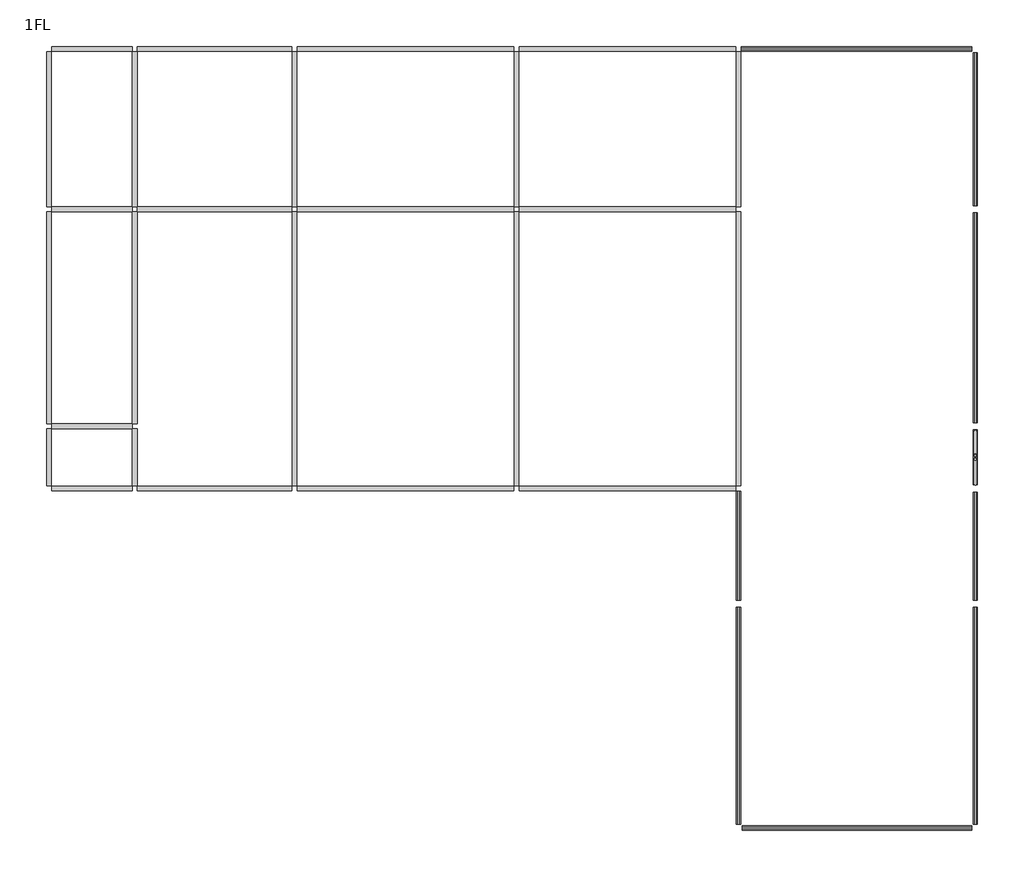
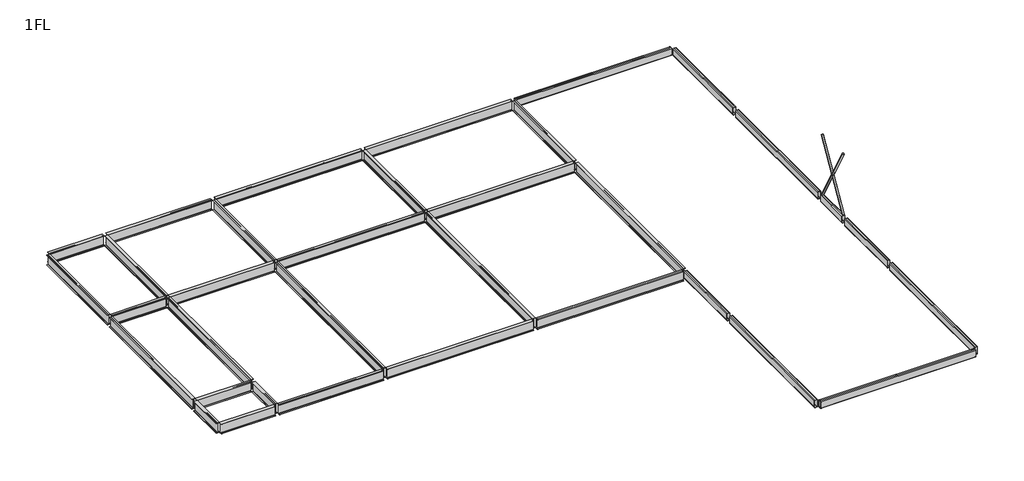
# One storey: 36 beams.
"""IFC4 building model written with IfcOpenShell, lengths in millimetres."""

import ifcopenshell
import ifcopenshell.guid

model = None  # the IFC model being written
_history = None  # IfcOwnerHistory: only IFC2X3 demands one
_inside = {}  # id of a spatial element -> (the spatial element, [elements in it])
_under = {}  # id of a project, library or spatial element -> (it, [spatial elements below it])
_declared = {}  # id of a project -> (the project, [libraries it declares])
_typed = {}  # id of a type object -> (the type object, [elements of that type])
_made_of = {}  # id of a material, layer set ... -> (it, [elements and type objects made of it])


def new_model(schema):
    """Start an empty IFC model of exactly this schema.

    Asked for "IFC4X3", IfcOpenShell would pick the latest addendum, in which some entities
    have other attributes; the version numbers below select the first issue.
    IFC2X3 requires an IfcOwnerHistory on every rooted entity: one is made here for all.
    """
    global model, _history
    if schema == "IFC4X3":
        model = ifcopenshell.file(schema_version=(4, 3, 0, 0))
    else:
        model = ifcopenshell.file(schema=schema)
    _inside.clear()
    _under.clear()
    _declared.clear()
    _typed.clear()
    _made_of.clear()
    _history = None
    if model.schema == "IFC2X3":
        org = make("IfcOrganization", Name="unknown")
        user = make(
            "IfcPersonAndOrganization",
            ThePerson=make("IfcPerson", FamilyName="unknown"),
            TheOrganization=org,
        )
        app = make(
            "IfcApplication",
            ApplicationDeveloper=org,
            Version="unknown",
            ApplicationFullName="unknown",
            ApplicationIdentifier="unknown",
        )
        _history = make(
            "IfcOwnerHistory",
            OwningUser=user,
            OwningApplication=app,
            ChangeAction="ADDED",
            CreationDate=0,
        )
    return model


def make(cls, **values):
    """One entity of the class cls with the attributes given. An attribute that is None is left unset."""
    return model.create_entity(
        cls, **{name: value for name, value in values.items() if value is not None}
    )


def rooted(cls, **values):
    """An entity with a GlobalId (a new one), such as an element, a storey or a relation."""
    return make(cls, GlobalId=ifcopenshell.guid.new(), OwnerHistory=_history, **values)


def si_unit(unit_type, name, prefix=None):
    """IfcSIUnit, for example si_unit("LENGTHUNIT", "METRE", prefix="MILLI")."""
    return make("IfcSIUnit", UnitType=unit_type, Prefix=prefix, Name=name)


def assignment(units):
    """IfcUnitAssignment: the units of a project."""
    return None if units is None else make("IfcUnitAssignment", Units=units)


def point(xyz):
    """IfcCartesianPoint."""
    return None if xyz is None else make("IfcCartesianPoint", Coordinates=xyz)


def direction(xyz):
    """IfcDirection."""
    return None if xyz is None else make("IfcDirection", DirectionRatios=xyz)


def frame(location, z_axis=None, x_axis=None):
    """IfcAxis2Placement3D, a coordinate frame: its origin and axes. An axis left out is left unset."""
    return make(
        "IfcAxis2Placement3D",
        Location=point(location),
        Axis=direction(z_axis),
        RefDirection=direction(x_axis),
    )


def frame_2d(location, x_axis=None):
    """IfcAxis2Placement2D, a coordinate frame in the plane: its origin and x axis."""
    return make(
        "IfcAxis2Placement2D", Location=point(location), RefDirection=direction(x_axis)
    )


def origin():
    """The frame at (0, 0, 0) with its axes left unset."""
    return frame((0.0, 0.0, 0.0))


def origin_2d():
    """The frame at (0, 0) in the plane with its x axis left unset."""
    return frame_2d((0.0, 0.0))


def place(relative_to, where):
    """IfcLocalPlacement: puts the frame where relative to a parent placement (None: the world)."""
    return make(
        "IfcLocalPlacement", PlacementRelTo=relative_to, RelativePlacement=where
    )


def context(
    kind, dimensions, precision=None, world=None, true_north=None, identifier=None
):
    """IfcGeometricRepresentationContext, for example the 3D "Model" context."""
    return make(
        "IfcGeometricRepresentationContext",
        ContextIdentifier=identifier,
        ContextType=kind,
        CoordinateSpaceDimension=dimensions,
        Precision=precision,
        WorldCoordinateSystem=world,
        TrueNorth=true_north,
    )


def project(units=None, contexts=None):
    """IfcProject with its units and contexts."""
    return rooted(
        "IfcProject",
        Name="project",
        RepresentationContexts=contexts,
        UnitsInContext=assignment(units),
    )


def spatial(cls, under=None, at=None, **own):
    """A site, building, storey or space (cls), placed at a placement, below another one or the project."""
    s = rooted(cls, ObjectPlacement=at, **own)
    if under is not None:
        _under.setdefault(under.id(), (under, []))[1].append(s)
    return s


def polyline(points):
    """IfcPolyline through the points."""
    return make("IfcPolyline", Points=[point(p) for p in points])


def circle_curve(where, radius):
    """IfcCircle in the frame where."""
    return make("IfcCircle", Position=where, Radius=radius)


def trimmed(basis, trim1, trim2, sense, master):
    """IfcTrimmedCurve: the piece of a basis curve between two trims."""
    return make(
        "IfcTrimmedCurve",
        BasisCurve=basis,
        Trim1=trim1,
        Trim2=trim2,
        SenseAgreement=sense,
        MasterRepresentation=master,
    )


def segment(curve, same_sense, transition):
    """IfcCompositeCurveSegment."""
    return make(
        "IfcCompositeCurveSegment",
        Transition=transition,
        SameSense=same_sense,
        ParentCurve=curve,
    )


def composite_curve(segments, self_intersect=None):
    """IfcCompositeCurve: segments joined end to end."""
    return make("IfcCompositeCurve", Segments=segments, SelfIntersect=self_intersect)


def outline(outer, holes=None, kind="AREA"):
    """IfcArbitraryClosedProfileDef: a profile drawn as a closed curve; with holes, ...WithVoids."""
    if holes is None:
        return make("IfcArbitraryClosedProfileDef", ProfileType=kind, OuterCurve=outer)
    return make(
        "IfcArbitraryProfileDefWithVoids",
        ProfileType=kind,
        OuterCurve=outer,
        InnerCurves=holes,
    )


def extrude(swept, where, along, depth):
    """IfcExtrudedAreaSolid: the profile swept, set in the frame where, extruded along a direction by depth."""
    return make(
        "IfcExtrudedAreaSolid",
        SweptArea=swept,
        Position=where,
        ExtrudedDirection=direction(along),
        Depth=depth,
    )


def shape(context_of_items, identifier, shape_type, items):
    """IfcShapeRepresentation: the items that make up one representation, for example the "Body"."""
    return make(
        "IfcShapeRepresentation",
        ContextOfItems=context_of_items,
        RepresentationIdentifier=identifier,
        RepresentationType=shape_type,
        Items=items,
    )


def source(mapping_origin, context_of_items, identifier, shape_type, items):
    """IfcRepresentationMap: a shape defined once, which mapped items show again and again."""
    return make(
        "IfcRepresentationMap",
        MappingOrigin=mapping_origin,
        MappedRepresentation=shape(context_of_items, identifier, shape_type, items),
    )


def transform(
    local_origin,
    x_axis=None,
    y_axis=None,
    z_axis=None,
    scale=None,
    scale2=None,
    scale3=None,
    uniform=True,
):
    """IfcCartesianTransformationOperator3D, or its non-uniform kind. x_axis, y_axis, z_axis: its Axis1, 2, 3."""
    if uniform:
        return make(
            "IfcCartesianTransformationOperator3D",
            Axis1=direction(x_axis),
            Axis2=direction(y_axis),
            LocalOrigin=point(local_origin),
            Scale=scale,
            Axis3=direction(z_axis),
        )
    return make(
        "IfcCartesianTransformationOperator3DnonUniform",
        Axis1=direction(x_axis),
        Axis2=direction(y_axis),
        LocalOrigin=point(local_origin),
        Scale=scale,
        Axis3=direction(z_axis),
        Scale2=scale2,
        Scale3=scale3,
    )


def mapped(mapping_source, mapping_target):
    """IfcMappedItem: shows the shape of a source again, moved by a transform."""
    return make(
        "IfcMappedItem", MappingSource=mapping_source, MappingTarget=mapping_target
    )


def made_of(thing, what):
    """Note that an element or type object is made of a material, layer set ...; save() writes the relation."""
    if what is not None:
        _made_of.setdefault(what.id(), (what, []))[1].append(thing)
    return thing


def element(
    cls,
    number,
    at=None,
    inside=None,
    cuts=None,
    type_object=None,
    material=None,
    context=None,
    identifier="Body",
    shape_type=None,
    held_by="IfcProductDefinitionShape",
    body=None,
    shapes=None,
    **own,
):
    """One element of the class cls, such as IfcWall. Its Tag is "e" and its number.

    at: its placement. inside: the storey or other place that contains it. cuts: it is an
    opening in that element (IfcRelVoidsElement). A single representation is given by context,
    identifier, shape_type and body (its items); several are given by shapes. held_by: the class
    of the entity that holds the representations. save() writes the other relations.
    """
    e = rooted(cls, Tag="e%d" % number, ObjectPlacement=at, **own)
    if body is not None:
        shapes = [shape(context, identifier, shape_type, body)]
    if shapes is not None:
        e.Representation = make(held_by, Representations=shapes)
    if inside is not None:
        _inside.setdefault(inside.id(), (inside, []))[1].append(e)
    if cuts is not None:
        rooted(
            "IfcRelVoidsElement", RelatingBuildingElement=cuts, RelatedOpeningElement=e
        )
    if type_object is not None:
        _typed.setdefault(type_object.id(), (type_object, []))[1].append(e)
    return made_of(e, material)


def aggregate(whole, parts):
    """IfcRelAggregates: a whole, such as a stair, and the parts it consists of."""
    return rooted("IfcRelAggregates", RelatingObject=whole, RelatedObjects=parts)


def save(model, path):
    """Write the relations noted so far, then the file.

    IfcRelAggregates (storeys below a building ...), IfcRelContainedInSpatialStructure (elements
    in a storey), IfcRelDefinesByType, IfcRelAssociatesMaterial and IfcRelDeclares: one each for
    every whole, place, type object, material and project.
    """
    for whole, parts in _under.values():
        aggregate(whole, parts)
    for where, things in _inside.values():
        rooted(
            "IfcRelContainedInSpatialStructure",
            RelatedElements=things,
            RelatingStructure=where,
        )
    for kind, things in _typed.values():
        rooted("IfcRelDefinesByType", RelatedObjects=things, RelatingType=kind)
    for what, things in _made_of.values():
        rooted("IfcRelAssociatesMaterial", RelatedObjects=things, RelatingMaterial=what)
    for by, libraries in _declared.values():
        rooted("IfcRelDeclares", RelatingContext=by, RelatedDefinitions=libraries)
    model.write(path)


def chs_circular_hollow_sections_chs88_9x5_e4ac247b(model_context):
    return source(origin(), model_context, "Body", "SweptSolid", [
        extrude(outline(composite_curve([segment(trimmed(circle_curve(origin_2d(), 44.45), [point((-44.45, 0.0))], [point((44.45, 0.0))], False, "CARTESIAN"), True, "CONTINUOUS"), segment(trimmed(circle_curve(origin_2d(), 44.45), [point((44.45, 0.0))], [point((-44.45, 0.0))], False, "CARTESIAN"), True, "CONTINUOUS")], self_intersect=False), holes=[composite_curve([segment(trimmed(circle_curve(origin_2d(), 39.45), [point((39.45, 0.0))], [point((-39.45, 0.0))], True, "CARTESIAN"), True, "CONTINUOUS"), segment(trimmed(circle_curve(origin_2d(), 39.45), [point((-39.45, 0.0))], [point((39.45, 0.0))], True, "CARTESIAN"), True, "CONTINUOUS")], self_intersect=False)]), frame((-1907.5, 0.0, 0.0), z_axis=(1.0, 0.0, 0.0), x_axis=(0.0, 1.0, 0.0)), (0.0, 0.0, 1.0), 3709.0),
    ])


def chs_circular_hollow_sections_chs88_9x5_d913b4f5(model_context):
    return source(origin(), model_context, "Body", "SweptSolid", [
        extrude(outline(composite_curve([segment(trimmed(circle_curve(origin_2d(), 44.45), [point((-44.45, 0.0))], [point((44.45, 0.0))], False, "CARTESIAN"), True, "CONTINUOUS"), segment(trimmed(circle_curve(origin_2d(), 44.45), [point((44.45, 0.0))], [point((-44.45, 0.0))], False, "CARTESIAN"), True, "CONTINUOUS")], self_intersect=False), holes=[composite_curve([segment(trimmed(circle_curve(origin_2d(), 39.45), [point((39.45, 0.0))], [point((-39.45, 0.0))], True, "CARTESIAN"), True, "CONTINUOUS"), segment(trimmed(circle_curve(origin_2d(), 39.45), [point((-39.45, 0.0))], [point((39.45, 0.0))], True, "CARTESIAN"), True, "CONTINUOUS")], self_intersect=False)]), frame((-1917.5, 0.0, 0.0), z_axis=(1.0, 0.0, 0.0), x_axis=(0.0, 1.0, 0.0)), (0.0, 0.0, 1.0), 3679.0),
    ])


def rhs_rectangular_hollow_sections_rhs_400x150x16_02b2573c(model_context):
    return source(origin(), model_context, "Body", "SweptSolid", [
        extrude(outline(composite_curve([segment(polyline([(75.0, 168.0), (75.0, -168.0)]), True, "CONTINUOUS"), segment(trimmed(circle_curve(frame_2d((43.0, -168.0)), 32.0), [point((75.0, -168.0))], [point((43.0, -200.0))], False, "CARTESIAN"), True, "CONTINUOUS"), segment(polyline([(43.0, -200.0), (-43.0, -200.0)]), True, "CONTINUOUS"), segment(trimmed(circle_curve(frame_2d((-43.0, -168.0)), 32.0), [point((-43.0, -200.0))], [point((-75.0, -168.0))], False, "CARTESIAN"), True, "CONTINUOUS"), segment(polyline([(-75.0, -168.0), (-75.0, 168.0)]), True, "CONTINUOUS"), segment(trimmed(circle_curve(frame_2d((-43.0, 168.0)), 32.0), [point((-75.0, 168.0))], [point((-43.0, 200.0))], False, "CARTESIAN"), True, "CONTINUOUS"), segment(polyline([(-43.0, 200.0), (43.0, 200.0)]), True, "CONTINUOUS"), segment(trimmed(circle_curve(frame_2d((43.0, 168.0)), 32.0), [point((43.0, 200.0))], [point((75.0, 168.0))], False, "CARTESIAN"), True, "CONTINUOUS")], self_intersect=False), holes=[composite_curve([segment(trimmed(circle_curve(frame_2d((-43.0, 168.0)), 16.0), [point((-43.0, 184.0))], [point((-59.0, 168.0))], True, "CARTESIAN"), True, "CONTINUOUS"), segment(polyline([(-59.0, 168.0), (-59.0, -168.0)]), True, "CONTINUOUS"), segment(trimmed(circle_curve(frame_2d((-43.0, -168.0)), 16.0), [point((-59.0, -168.0))], [point((-43.0, -184.0))], True, "CARTESIAN"), True, "CONTINUOUS"), segment(polyline([(-43.0, -184.0), (43.0, -184.0)]), True, "CONTINUOUS"), segment(trimmed(circle_curve(frame_2d((43.0, -168.0)), 16.0), [point((43.0, -184.0))], [point((59.0, -168.0))], True, "CARTESIAN"), True, "CONTINUOUS"), segment(polyline([(59.0, -168.0), (59.0, 168.0)]), True, "CONTINUOUS"), segment(trimmed(circle_curve(frame_2d((43.0, 168.0)), 16.0), [point((59.0, 168.0))], [point((43.0, 184.0))], True, "CARTESIAN"), True, "CONTINUOUS"), segment(polyline([(43.0, 184.0), (-43.0, 184.0)]), True, "CONTINUOUS")], self_intersect=False)]), frame((-3975.0, 0.0, 0.0), z_axis=(1.0, 0.0, 0.0), x_axis=(0.0, 1.0, 0.0)), (0.0, 0.0, 1.0), 7916.0),
    ])


def rhs_rectangular_hollow_sections_rhs_400x150x16_e138dd60(model_context):
    return source(origin(), model_context, "Body", "SweptSolid", [
        extrude(outline(composite_curve([segment(polyline([(75.0, 168.0), (75.0, -168.0)]), True, "CONTINUOUS"), segment(trimmed(circle_curve(frame_2d((43.0, -168.0)), 32.0), [point((75.0, -168.0))], [point((43.0, -200.0))], False, "CARTESIAN"), True, "CONTINUOUS"), segment(polyline([(43.0, -200.0), (-43.0, -200.0)]), True, "CONTINUOUS"), segment(trimmed(circle_curve(frame_2d((-43.0, -168.0)), 32.0), [point((-43.0, -200.0))], [point((-75.0, -168.0))], False, "CARTESIAN"), True, "CONTINUOUS"), segment(polyline([(-75.0, -168.0), (-75.0, 168.0)]), True, "CONTINUOUS"), segment(trimmed(circle_curve(frame_2d((-43.0, 168.0)), 32.0), [point((-75.0, 168.0))], [point((-43.0, 200.0))], False, "CARTESIAN"), True, "CONTINUOUS"), segment(polyline([(-43.0, 200.0), (43.0, 200.0)]), True, "CONTINUOUS"), segment(trimmed(circle_curve(frame_2d((43.0, 168.0)), 32.0), [point((43.0, 200.0))], [point((75.0, 168.0))], False, "CARTESIAN"), True, "CONTINUOUS")], self_intersect=False), holes=[composite_curve([segment(trimmed(circle_curve(frame_2d((-43.0, 168.0)), 16.0), [point((-43.0, 184.0))], [point((-59.0, 168.0))], True, "CARTESIAN"), True, "CONTINUOUS"), segment(polyline([(-59.0, 168.0), (-59.0, -168.0)]), True, "CONTINUOUS"), segment(trimmed(circle_curve(frame_2d((-43.0, -168.0)), 16.0), [point((-59.0, -168.0))], [point((-43.0, -184.0))], True, "CARTESIAN"), True, "CONTINUOUS"), segment(polyline([(-43.0, -184.0), (43.0, -184.0)]), True, "CONTINUOUS"), segment(trimmed(circle_curve(frame_2d((43.0, -168.0)), 16.0), [point((43.0, -184.0))], [point((59.0, -168.0))], True, "CARTESIAN"), True, "CONTINUOUS"), segment(polyline([(59.0, -168.0), (59.0, 168.0)]), True, "CONTINUOUS"), segment(trimmed(circle_curve(frame_2d((43.0, 168.0)), 16.0), [point((59.0, 168.0))], [point((43.0, 184.0))], True, "CARTESIAN"), True, "CONTINUOUS"), segment(polyline([(43.0, 184.0), (-43.0, 184.0)]), True, "CONTINUOUS")], self_intersect=False)]), frame((-944.0, 0.0, 0.0), z_axis=(1.0, 0.0, 0.0), x_axis=(0.0, 1.0, 0.0)), (0.0, 0.0, 1.0), 1888.0),
    ])


def rhs_rectangular_hollow_sections_rhs_400x150x16_f32051a2(model_context):
    return source(origin(), model_context, "Body", "SweptSolid", [
        extrude(outline(composite_curve([segment(polyline([(75.0, 168.0), (75.0, -168.0)]), True, "CONTINUOUS"), segment(trimmed(circle_curve(frame_2d((43.0, -168.0)), 32.0), [point((75.0, -168.0))], [point((43.0, -200.0))], False, "CARTESIAN"), True, "CONTINUOUS"), segment(polyline([(43.0, -200.0), (-43.0, -200.0)]), True, "CONTINUOUS"), segment(trimmed(circle_curve(frame_2d((-43.0, -168.0)), 32.0), [point((-43.0, -200.0))], [point((-75.0, -168.0))], False, "CARTESIAN"), True, "CONTINUOUS"), segment(polyline([(-75.0, -168.0), (-75.0, 168.0)]), True, "CONTINUOUS"), segment(trimmed(circle_curve(frame_2d((-43.0, 168.0)), 32.0), [point((-75.0, 168.0))], [point((-43.0, 200.0))], False, "CARTESIAN"), True, "CONTINUOUS"), segment(polyline([(-43.0, 200.0), (43.0, 200.0)]), True, "CONTINUOUS"), segment(trimmed(circle_curve(frame_2d((43.0, 168.0)), 32.0), [point((43.0, 200.0))], [point((75.0, 168.0))], False, "CARTESIAN"), True, "CONTINUOUS")], self_intersect=False), holes=[composite_curve([segment(trimmed(circle_curve(frame_2d((-43.0, 168.0)), 16.0), [point((-43.0, 184.0))], [point((-59.0, 168.0))], True, "CARTESIAN"), True, "CONTINUOUS"), segment(polyline([(-59.0, 168.0), (-59.0, -168.0)]), True, "CONTINUOUS"), segment(trimmed(circle_curve(frame_2d((-43.0, -168.0)), 16.0), [point((-59.0, -168.0))], [point((-43.0, -184.0))], True, "CARTESIAN"), True, "CONTINUOUS"), segment(polyline([(-43.0, -184.0), (43.0, -184.0)]), True, "CONTINUOUS"), segment(trimmed(circle_curve(frame_2d((43.0, -168.0)), 16.0), [point((43.0, -184.0))], [point((59.0, -168.0))], True, "CARTESIAN"), True, "CONTINUOUS"), segment(polyline([(59.0, -168.0), (59.0, 168.0)]), True, "CONTINUOUS"), segment(trimmed(circle_curve(frame_2d((43.0, 168.0)), 16.0), [point((59.0, 168.0))], [point((43.0, 184.0))], True, "CARTESIAN"), True, "CONTINUOUS"), segment(polyline([(43.0, 184.0), (-43.0, 184.0)]), True, "CONTINUOUS")], self_intersect=False)]), frame((-1858.0, 0.0, 0.0), z_axis=(1.0, 0.0, 0.0), x_axis=(0.0, 1.0, 0.0)), (0.0, 0.0, 1.0), 3716.0),
    ])


def rhs_rectangular_hollow_sections_rhs_400x150x16_d0cd4388(model_context):
    return source(origin(), model_context, "Body", "SweptSolid", [
        extrude(outline(composite_curve([segment(polyline([(75.0, 168.0), (75.0, -168.0)]), True, "CONTINUOUS"), segment(trimmed(circle_curve(frame_2d((43.0, -168.0)), 32.0), [point((75.0, -168.0))], [point((43.0, -200.0))], False, "CARTESIAN"), True, "CONTINUOUS"), segment(polyline([(43.0, -200.0), (-43.0, -200.0)]), True, "CONTINUOUS"), segment(trimmed(circle_curve(frame_2d((-43.0, -168.0)), 32.0), [point((-43.0, -200.0))], [point((-75.0, -168.0))], False, "CARTESIAN"), True, "CONTINUOUS"), segment(polyline([(-75.0, -168.0), (-75.0, 168.0)]), True, "CONTINUOUS"), segment(trimmed(circle_curve(frame_2d((-43.0, 168.0)), 32.0), [point((-75.0, 168.0))], [point((-43.0, 200.0))], False, "CARTESIAN"), True, "CONTINUOUS"), segment(polyline([(-43.0, 200.0), (43.0, 200.0)]), True, "CONTINUOUS"), segment(trimmed(circle_curve(frame_2d((43.0, 168.0)), 32.0), [point((43.0, 200.0))], [point((75.0, 168.0))], False, "CARTESIAN"), True, "CONTINUOUS")], self_intersect=False), holes=[composite_curve([segment(trimmed(circle_curve(frame_2d((-43.0, 168.0)), 16.0), [point((-43.0, 184.0))], [point((-59.0, 168.0))], True, "CARTESIAN"), True, "CONTINUOUS"), segment(polyline([(-59.0, 168.0), (-59.0, -168.0)]), True, "CONTINUOUS"), segment(trimmed(circle_curve(frame_2d((-43.0, -168.0)), 16.0), [point((-59.0, -168.0))], [point((-43.0, -184.0))], True, "CARTESIAN"), True, "CONTINUOUS"), segment(polyline([(-43.0, -184.0), (43.0, -184.0)]), True, "CONTINUOUS"), segment(trimmed(circle_curve(frame_2d((43.0, -168.0)), 16.0), [point((43.0, -184.0))], [point((59.0, -168.0))], True, "CARTESIAN"), True, "CONTINUOUS"), segment(polyline([(59.0, -168.0), (59.0, 168.0)]), True, "CONTINUOUS"), segment(trimmed(circle_curve(frame_2d((43.0, 168.0)), 16.0), [point((59.0, 168.0))], [point((43.0, 184.0))], True, "CARTESIAN"), True, "CONTINUOUS"), segment(polyline([(43.0, 184.0), (-43.0, 184.0)]), True, "CONTINUOUS")], self_intersect=False)]), frame((-1892.0, 0.0, 0.0), z_axis=(1.0, 0.0, 0.0), x_axis=(0.0, 1.0, 0.0)), (0.0, 0.0, 1.0), 3750.0),
    ])


def rhs_rectangular_hollow_sections_rhs_400x150x16_86f8c13a(model_context):
    return source(origin(), model_context, "Body", "SweptSolid", [
        extrude(outline(composite_curve([segment(polyline([(75.0, 168.0), (75.0, -168.0)]), True, "CONTINUOUS"), segment(trimmed(circle_curve(frame_2d((43.0, -168.0)), 32.0), [point((75.0, -168.0))], [point((43.0, -200.0))], False, "CARTESIAN"), True, "CONTINUOUS"), segment(polyline([(43.0, -200.0), (-43.0, -200.0)]), True, "CONTINUOUS"), segment(trimmed(circle_curve(frame_2d((-43.0, -168.0)), 32.0), [point((-43.0, -200.0))], [point((-75.0, -168.0))], False, "CARTESIAN"), True, "CONTINUOUS"), segment(polyline([(-75.0, -168.0), (-75.0, 168.0)]), True, "CONTINUOUS"), segment(trimmed(circle_curve(frame_2d((-43.0, 168.0)), 32.0), [point((-75.0, 168.0))], [point((-43.0, 200.0))], False, "CARTESIAN"), True, "CONTINUOUS"), segment(polyline([(-43.0, 200.0), (43.0, 200.0)]), True, "CONTINUOUS"), segment(trimmed(circle_curve(frame_2d((43.0, 168.0)), 32.0), [point((43.0, 200.0))], [point((75.0, 168.0))], False, "CARTESIAN"), True, "CONTINUOUS")], self_intersect=False), holes=[composite_curve([segment(trimmed(circle_curve(frame_2d((-43.0, 168.0)), 16.0), [point((-43.0, 184.0))], [point((-59.0, 168.0))], True, "CARTESIAN"), True, "CONTINUOUS"), segment(polyline([(-59.0, 168.0), (-59.0, -168.0)]), True, "CONTINUOUS"), segment(trimmed(circle_curve(frame_2d((-43.0, -168.0)), 16.0), [point((-59.0, -168.0))], [point((-43.0, -184.0))], True, "CARTESIAN"), True, "CONTINUOUS"), segment(polyline([(-43.0, -184.0), (43.0, -184.0)]), True, "CONTINUOUS"), segment(trimmed(circle_curve(frame_2d((43.0, -168.0)), 16.0), [point((43.0, -184.0))], [point((59.0, -168.0))], True, "CARTESIAN"), True, "CONTINUOUS"), segment(polyline([(59.0, -168.0), (59.0, 168.0)]), True, "CONTINUOUS"), segment(trimmed(circle_curve(frame_2d((43.0, 168.0)), 16.0), [point((59.0, 168.0))], [point((43.0, 184.0))], True, "CARTESIAN"), True, "CONTINUOUS"), segment(polyline([(43.0, 184.0), (-43.0, 184.0)]), True, "CONTINUOUS")], self_intersect=False)]), frame((-3725.0, 0.0, 0.0), z_axis=(1.0, 0.0, 0.0), x_axis=(0.0, 1.0, 0.0)), (0.0, 0.0, 1.0), 7450.0),
    ])


def rhs_rectangular_hollow_sections_rhs_400x150x16_c2b2d87c(model_context):
    return source(origin(), model_context, "Body", "SweptSolid", [
        extrude(outline(composite_curve([segment(polyline([(75.0, 168.0), (75.0, -168.0)]), True, "CONTINUOUS"), segment(trimmed(circle_curve(frame_2d((43.0, -168.0)), 32.0), [point((75.0, -168.0))], [point((43.0, -200.0))], False, "CARTESIAN"), True, "CONTINUOUS"), segment(polyline([(43.0, -200.0), (-43.0, -200.0)]), True, "CONTINUOUS"), segment(trimmed(circle_curve(frame_2d((-43.0, -168.0)), 32.0), [point((-43.0, -200.0))], [point((-75.0, -168.0))], False, "CARTESIAN"), True, "CONTINUOUS"), segment(polyline([(-75.0, -168.0), (-75.0, 168.0)]), True, "CONTINUOUS"), segment(trimmed(circle_curve(frame_2d((-43.0, 168.0)), 32.0), [point((-75.0, 168.0))], [point((-43.0, 200.0))], False, "CARTESIAN"), True, "CONTINUOUS"), segment(polyline([(-43.0, 200.0), (43.0, 200.0)]), True, "CONTINUOUS"), segment(trimmed(circle_curve(frame_2d((43.0, 168.0)), 32.0), [point((43.0, 200.0))], [point((75.0, 168.0))], False, "CARTESIAN"), True, "CONTINUOUS")], self_intersect=False), holes=[composite_curve([segment(trimmed(circle_curve(frame_2d((-43.0, 168.0)), 16.0), [point((-43.0, 184.0))], [point((-59.0, 168.0))], True, "CARTESIAN"), True, "CONTINUOUS"), segment(polyline([(-59.0, 168.0), (-59.0, -168.0)]), True, "CONTINUOUS"), segment(trimmed(circle_curve(frame_2d((-43.0, -168.0)), 16.0), [point((-59.0, -168.0))], [point((-43.0, -184.0))], True, "CARTESIAN"), True, "CONTINUOUS"), segment(polyline([(-43.0, -184.0), (43.0, -184.0)]), True, "CONTINUOUS"), segment(trimmed(circle_curve(frame_2d((43.0, -168.0)), 16.0), [point((43.0, -184.0))], [point((59.0, -168.0))], True, "CARTESIAN"), True, "CONTINUOUS"), segment(polyline([(59.0, -168.0), (59.0, 168.0)]), True, "CONTINUOUS"), segment(trimmed(circle_curve(frame_2d((43.0, 168.0)), 16.0), [point((59.0, 168.0))], [point((43.0, 184.0))], True, "CARTESIAN"), True, "CONTINUOUS"), segment(polyline([(43.0, 184.0), (-43.0, 184.0)]), True, "CONTINUOUS")], self_intersect=False)]), frame((-3941.0, 0.0, 0.0), z_axis=(1.0, 0.0, 0.0), x_axis=(0.0, 1.0, 0.0)), (0.0, 0.0, 1.0), 7882.0),
    ])


def rhs_rectangular_hollow_sections_rhs_400x150x16_ad5eef5e(model_context):
    return source(origin(), model_context, "Body", "SweptSolid", [
        extrude(outline(composite_curve([segment(polyline([(75.0, 168.0), (75.0, -168.0)]), True, "CONTINUOUS"), segment(trimmed(circle_curve(frame_2d((43.0, -168.0)), 32.0), [point((75.0, -168.0))], [point((43.0, -200.0))], False, "CARTESIAN"), True, "CONTINUOUS"), segment(polyline([(43.0, -200.0), (-43.0, -200.0)]), True, "CONTINUOUS"), segment(trimmed(circle_curve(frame_2d((-43.0, -168.0)), 32.0), [point((-43.0, -200.0))], [point((-75.0, -168.0))], False, "CARTESIAN"), True, "CONTINUOUS"), segment(polyline([(-75.0, -168.0), (-75.0, 168.0)]), True, "CONTINUOUS"), segment(trimmed(circle_curve(frame_2d((-43.0, 168.0)), 32.0), [point((-75.0, 168.0))], [point((-43.0, 200.0))], False, "CARTESIAN"), True, "CONTINUOUS"), segment(polyline([(-43.0, 200.0), (43.0, 200.0)]), True, "CONTINUOUS"), segment(trimmed(circle_curve(frame_2d((43.0, 168.0)), 32.0), [point((43.0, 200.0))], [point((75.0, 168.0))], False, "CARTESIAN"), True, "CONTINUOUS")], self_intersect=False), holes=[composite_curve([segment(trimmed(circle_curve(frame_2d((-43.0, 168.0)), 16.0), [point((-43.0, 184.0))], [point((-59.0, 168.0))], True, "CARTESIAN"), True, "CONTINUOUS"), segment(polyline([(-59.0, 168.0), (-59.0, -168.0)]), True, "CONTINUOUS"), segment(trimmed(circle_curve(frame_2d((-43.0, -168.0)), 16.0), [point((-59.0, -168.0))], [point((-43.0, -184.0))], True, "CARTESIAN"), True, "CONTINUOUS"), segment(polyline([(-43.0, -184.0), (43.0, -184.0)]), True, "CONTINUOUS"), segment(trimmed(circle_curve(frame_2d((43.0, -168.0)), 16.0), [point((43.0, -184.0))], [point((59.0, -168.0))], True, "CARTESIAN"), True, "CONTINUOUS"), segment(polyline([(59.0, -168.0), (59.0, 168.0)]), True, "CONTINUOUS"), segment(trimmed(circle_curve(frame_2d((43.0, 168.0)), 16.0), [point((59.0, 168.0))], [point((43.0, 184.0))], True, "CARTESIAN"), True, "CONTINUOUS"), segment(polyline([(43.0, 184.0), (-43.0, 184.0)]), True, "CONTINUOUS")], self_intersect=False)]), frame((-3604.5, 0.0, 0.0), z_axis=(1.0, 0.0, 0.0), x_axis=(0.0, 1.0, 0.0)), (0.0, 0.0, 1.0), 7209.0),
    ])


def rhs_rectangular_hollow_sections_rhs_400x150x16_8b646e73(model_context):
    return source(origin(), model_context, "Body", "SweptSolid", [
        extrude(outline(composite_curve([segment(polyline([(75.0, 168.0), (75.0, -168.0)]), True, "CONTINUOUS"), segment(trimmed(circle_curve(frame_2d((43.0, -168.0)), 32.0), [point((75.0, -168.0))], [point((43.0, -200.0))], False, "CARTESIAN"), True, "CONTINUOUS"), segment(polyline([(43.0, -200.0), (-43.0, -200.0)]), True, "CONTINUOUS"), segment(trimmed(circle_curve(frame_2d((-43.0, -168.0)), 32.0), [point((-43.0, -200.0))], [point((-75.0, -168.0))], False, "CARTESIAN"), True, "CONTINUOUS"), segment(polyline([(-75.0, -168.0), (-75.0, 168.0)]), True, "CONTINUOUS"), segment(trimmed(circle_curve(frame_2d((-43.0, 168.0)), 32.0), [point((-75.0, 168.0))], [point((-43.0, 200.0))], False, "CARTESIAN"), True, "CONTINUOUS"), segment(polyline([(-43.0, 200.0), (43.0, 200.0)]), True, "CONTINUOUS"), segment(trimmed(circle_curve(frame_2d((43.0, 168.0)), 32.0), [point((43.0, 200.0))], [point((75.0, 168.0))], False, "CARTESIAN"), True, "CONTINUOUS")], self_intersect=False), holes=[composite_curve([segment(trimmed(circle_curve(frame_2d((-43.0, 168.0)), 16.0), [point((-43.0, 184.0))], [point((-59.0, 168.0))], True, "CARTESIAN"), True, "CONTINUOUS"), segment(polyline([(-59.0, 168.0), (-59.0, -168.0)]), True, "CONTINUOUS"), segment(trimmed(circle_curve(frame_2d((-43.0, -168.0)), 16.0), [point((-59.0, -168.0))], [point((-43.0, -184.0))], True, "CARTESIAN"), True, "CONTINUOUS"), segment(polyline([(-43.0, -184.0), (43.0, -184.0)]), True, "CONTINUOUS"), segment(trimmed(circle_curve(frame_2d((43.0, -168.0)), 16.0), [point((43.0, -184.0))], [point((59.0, -168.0))], True, "CARTESIAN"), True, "CONTINUOUS"), segment(polyline([(59.0, -168.0), (59.0, 168.0)]), True, "CONTINUOUS"), segment(trimmed(circle_curve(frame_2d((43.0, 168.0)), 16.0), [point((59.0, 168.0))], [point((43.0, 184.0))], True, "CARTESIAN"), True, "CONTINUOUS"), segment(polyline([(43.0, 184.0), (-43.0, 184.0)]), True, "CONTINUOUS")], self_intersect=False)]), frame((-2626.5, 0.0, 0.0), z_axis=(1.0, 0.0, 0.0), x_axis=(0.0, 1.0, 0.0)), (0.0, 0.0, 1.0), 5253.0),
    ])


def ukb533x165x66_6c2c31ed(model_context):
    return source(origin(), model_context, "Body", "SweptSolid", [
        extrude(outline(composite_curve([segment(polyline([(82.55, -250.95), (82.55, -262.35), (-82.55, -262.35), (-82.55, -250.95), (-17.15, -250.95)]), True, "CONTINUOUS"), segment(trimmed(circle_curve(frame_2d((-17.15, -238.25)), 12.7), [point((-17.15, -250.95))], [point((-4.45, -238.25))], True, "CARTESIAN"), True, "CONTINUOUS"), segment(polyline([(-4.45, -238.25), (-4.45, 238.25)]), True, "CONTINUOUS"), segment(trimmed(circle_curve(frame_2d((-17.15, 238.25)), 12.7), [point((-4.45, 238.25))], [point((-17.15, 250.95))], True, "CARTESIAN"), True, "CONTINUOUS"), segment(polyline([(-17.15, 250.95), (-82.55, 250.95), (-82.55, 262.35), (82.55, 262.35), (82.55, 250.95), (17.15, 250.95)]), True, "CONTINUOUS"), segment(trimmed(circle_curve(frame_2d((17.15, 238.25)), 12.7), [point((17.15, 250.95))], [point((4.45, 238.25))], True, "CARTESIAN"), True, "CONTINUOUS"), segment(polyline([(4.45, 238.25), (4.45, -238.25)]), True, "CONTINUOUS"), segment(trimmed(circle_curve(frame_2d((17.15, -238.25)), 12.7), [point((4.45, -238.25))], [point((17.15, -250.95))], True, "CARTESIAN"), True, "CONTINUOUS"), segment(polyline([(17.15, -250.95), (82.55, -250.95)]), True, "CONTINUOUS")], self_intersect=False)), frame((-2654.0, 0.0, 0.0), z_axis=(1.0, 0.0, 0.0), x_axis=(0.0, 1.0, 0.0)), (0.0, 0.0, 1.0), 5308.0),
    ])


def ukb533x165x66_10c7cd28(model_context):
    return source(origin(), model_context, "Body", "SweptSolid", [
        extrude(outline(composite_curve([segment(polyline([(82.55, -250.95), (82.55, -262.35), (-82.55, -262.35), (-82.55, -250.95), (-17.15, -250.95)]), True, "CONTINUOUS"), segment(trimmed(circle_curve(frame_2d((-17.15, -238.25)), 12.7), [point((-17.15, -250.95))], [point((-4.45, -238.25))], True, "CARTESIAN"), True, "CONTINUOUS"), segment(polyline([(-4.45, -238.25), (-4.45, 238.25)]), True, "CONTINUOUS"), segment(trimmed(circle_curve(frame_2d((-17.15, 238.25)), 12.7), [point((-4.45, 238.25))], [point((-17.15, 250.95))], True, "CARTESIAN"), True, "CONTINUOUS"), segment(polyline([(-17.15, 250.95), (-82.55, 250.95), (-82.55, 262.35), (82.55, 262.35), (82.55, 250.95), (17.15, 250.95)]), True, "CONTINUOUS"), segment(trimmed(circle_curve(frame_2d((17.15, 238.25)), 12.7), [point((17.15, 250.95))], [point((4.45, 238.25))], True, "CARTESIAN"), True, "CONTINUOUS"), segment(polyline([(4.45, 238.25), (4.45, -238.25)]), True, "CONTINUOUS"), segment(trimmed(circle_curve(frame_2d((17.15, -238.25)), 12.7), [point((4.45, -238.25))], [point((17.15, -250.95))], True, "CARTESIAN"), True, "CONTINUOUS"), segment(polyline([(17.15, -250.95), (82.55, -250.95)]), True, "CONTINUOUS")], self_intersect=False)), frame((-3721.0, 0.0, 0.0), z_axis=(1.0, 0.0, 0.0), x_axis=(0.0, 1.0, 0.0)), (0.0, 0.0, 1.0), 7442.0),
    ])


def ukb533x165x66_131661b1(model_context):
    return source(origin(), model_context, "Body", "SweptSolid", [
        extrude(outline(composite_curve([segment(polyline([(82.55, -250.95), (82.55, -262.35), (-82.55, -262.35), (-82.55, -250.95), (-17.15, -250.95)]), True, "CONTINUOUS"), segment(trimmed(circle_curve(frame_2d((-17.15, -238.25)), 12.7), [point((-17.15, -250.95))], [point((-4.45, -238.25))], True, "CARTESIAN"), True, "CONTINUOUS"), segment(polyline([(-4.45, -238.25), (-4.45, 238.25)]), True, "CONTINUOUS"), segment(trimmed(circle_curve(frame_2d((-17.15, 238.25)), 12.7), [point((-4.45, 238.25))], [point((-17.15, 250.95))], True, "CARTESIAN"), True, "CONTINUOUS"), segment(polyline([(-17.15, 250.95), (-82.55, 250.95), (-82.55, 262.35), (82.55, 262.35), (82.55, 250.95), (17.15, 250.95)]), True, "CONTINUOUS"), segment(trimmed(circle_curve(frame_2d((17.15, 238.25)), 12.7), [point((17.15, 250.95))], [point((4.45, 238.25))], True, "CARTESIAN"), True, "CONTINUOUS"), segment(polyline([(4.45, 238.25), (4.45, -238.25)]), True, "CONTINUOUS"), segment(trimmed(circle_curve(frame_2d((17.15, -238.25)), 12.7), [point((4.45, -238.25))], [point((17.15, -250.95))], True, "CARTESIAN"), True, "CONTINUOUS"), segment(polyline([(17.15, -250.95), (82.55, -250.95)]), True, "CONTINUOUS")], self_intersect=False)), frame((-2660.5, 0.0, 0.0), z_axis=(1.0, 0.0, 0.0), x_axis=(0.0, 1.0, 0.0)), (0.0, 0.0, 1.0), 5321.0),
    ])


def ukb533x165x66_0dd4db16(model_context):
    return source(origin(), model_context, "Body", "SweptSolid", [
        extrude(outline(composite_curve([segment(polyline([(82.55, -250.95), (82.55, -262.35), (-82.55, -262.35), (-82.55, -250.95), (-17.15, -250.95)]), True, "CONTINUOUS"), segment(trimmed(circle_curve(frame_2d((-17.15, -238.25)), 12.7), [point((-17.15, -250.95))], [point((-4.45, -238.25))], True, "CARTESIAN"), True, "CONTINUOUS"), segment(polyline([(-4.45, -238.25), (-4.45, 238.25)]), True, "CONTINUOUS"), segment(trimmed(circle_curve(frame_2d((-17.15, 238.25)), 12.7), [point((-4.45, 238.25))], [point((-17.15, 250.95))], True, "CARTESIAN"), True, "CONTINUOUS"), segment(polyline([(-17.15, 250.95), (-82.55, 250.95), (-82.55, 262.35), (82.55, 262.35), (82.55, 250.95), (17.15, 250.95)]), True, "CONTINUOUS"), segment(trimmed(circle_curve(frame_2d((17.15, 238.25)), 12.7), [point((17.15, 250.95))], [point((4.45, 238.25))], True, "CARTESIAN"), True, "CONTINUOUS"), segment(polyline([(4.45, 238.25), (4.45, -238.25)]), True, "CONTINUOUS"), segment(trimmed(circle_curve(frame_2d((17.15, -238.25)), 12.7), [point((4.45, -238.25))], [point((17.15, -250.95))], True, "CARTESIAN"), True, "CONTINUOUS"), segment(polyline([(17.15, -250.95), (82.55, -250.95)]), True, "CONTINUOUS")], self_intersect=False)), frame((-4705.5, 0.0, 0.0), z_axis=(1.0, 0.0, 0.0), x_axis=(0.0, 1.0, 0.0)), (0.0, 0.0, 1.0), 9411.0),
    ])


def ukb533x165x66_6d0a237b(model_context):
    return source(origin(), model_context, "Body", "SweptSolid", [
        extrude(outline(composite_curve([segment(polyline([(82.55, -250.95), (82.55, -262.35), (-82.55, -262.35), (-82.55, -250.95), (-17.15, -250.95)]), True, "CONTINUOUS"), segment(trimmed(circle_curve(frame_2d((-17.15, -238.25)), 12.7), [point((-17.15, -250.95))], [point((-4.45, -238.25))], True, "CARTESIAN"), True, "CONTINUOUS"), segment(polyline([(-4.45, -238.25), (-4.45, 238.25)]), True, "CONTINUOUS"), segment(trimmed(circle_curve(frame_2d((-17.15, 238.25)), 12.7), [point((-4.45, 238.25))], [point((-17.15, 250.95))], True, "CARTESIAN"), True, "CONTINUOUS"), segment(polyline([(-17.15, 250.95), (-82.55, 250.95), (-82.55, 262.35), (82.55, 262.35), (82.55, 250.95), (17.15, 250.95)]), True, "CONTINUOUS"), segment(trimmed(circle_curve(frame_2d((17.15, 238.25)), 12.7), [point((17.15, 250.95))], [point((4.45, 238.25))], True, "CARTESIAN"), True, "CONTINUOUS"), segment(polyline([(4.45, 238.25), (4.45, -238.25)]), True, "CONTINUOUS"), segment(trimmed(circle_curve(frame_2d((17.15, -238.25)), 12.7), [point((4.45, -238.25))], [point((17.15, -250.95))], True, "CARTESIAN"), True, "CONTINUOUS"), segment(polyline([(17.15, -250.95), (82.55, -250.95)]), True, "CONTINUOUS")], self_intersect=False)), frame((-3638.5, 0.0, 0.0), z_axis=(1.0, 0.0, 0.0), x_axis=(0.0, 1.0, 0.0)), (0.0, 0.0, 1.0), 7277.0),
    ])


def ukb533x165x66_27a6d2b0(model_context):
    return source(origin(), model_context, "Body", "SweptSolid", [
        extrude(outline(composite_curve([segment(polyline([(82.55, -250.95), (82.55, -262.35), (-82.55, -262.35), (-82.55, -250.95), (-17.15, -250.95)]), True, "CONTINUOUS"), segment(trimmed(circle_curve(frame_2d((-17.15, -238.25)), 12.7), [point((-17.15, -250.95))], [point((-4.45, -238.25))], True, "CARTESIAN"), True, "CONTINUOUS"), segment(polyline([(-4.45, -238.25), (-4.45, 238.25)]), True, "CONTINUOUS"), segment(trimmed(circle_curve(frame_2d((-17.15, 238.25)), 12.7), [point((-4.45, 238.25))], [point((-17.15, 250.95))], True, "CARTESIAN"), True, "CONTINUOUS"), segment(polyline([(-17.15, 250.95), (-82.55, 250.95), (-82.55, 262.35), (82.55, 262.35), (82.55, 250.95), (17.15, 250.95)]), True, "CONTINUOUS"), segment(trimmed(circle_curve(frame_2d((17.15, 238.25)), 12.7), [point((17.15, 250.95))], [point((4.45, 238.25))], True, "CARTESIAN"), True, "CONTINUOUS"), segment(polyline([(4.45, 238.25), (4.45, -238.25)]), True, "CONTINUOUS"), segment(trimmed(circle_curve(frame_2d((17.15, -238.25)), 12.7), [point((4.45, -238.25))], [point((17.15, -250.95))], True, "CARTESIAN"), True, "CONTINUOUS"), segment(polyline([(17.15, -250.95), (82.55, -250.95)]), True, "CONTINUOUS")], self_intersect=False)), frame((-978.0, 0.0, 0.0), z_axis=(1.0, 0.0, 0.0), x_axis=(0.0, 1.0, 0.0)), (0.0, 0.0, 1.0), 1956.0),
    ])


def ukb533x165x66_08b0a00d(model_context):
    return source(origin(), model_context, "Body", "SweptSolid", [
        extrude(outline(composite_curve([segment(polyline([(82.55, -250.95), (82.55, -262.35), (-82.55, -262.35), (-82.55, -250.95), (-17.15, -250.95)]), True, "CONTINUOUS"), segment(trimmed(circle_curve(frame_2d((-17.15, -238.25)), 12.7), [point((-17.15, -250.95))], [point((-4.45, -238.25))], True, "CARTESIAN"), True, "CONTINUOUS"), segment(polyline([(-4.45, -238.25), (-4.45, 238.25)]), True, "CONTINUOUS"), segment(trimmed(circle_curve(frame_2d((-17.15, 238.25)), 12.7), [point((-4.45, 238.25))], [point((-17.15, 250.95))], True, "CARTESIAN"), True, "CONTINUOUS"), segment(polyline([(-17.15, 250.95), (-82.55, 250.95), (-82.55, 262.35), (82.55, 262.35), (82.55, 250.95), (17.15, 250.95)]), True, "CONTINUOUS"), segment(trimmed(circle_curve(frame_2d((17.15, 238.25)), 12.7), [point((17.15, 250.95))], [point((4.45, 238.25))], True, "CARTESIAN"), True, "CONTINUOUS"), segment(polyline([(4.45, 238.25), (4.45, -238.25)]), True, "CONTINUOUS"), segment(trimmed(circle_curve(frame_2d((17.15, -238.25)), 12.7), [point((4.45, -238.25))], [point((17.15, -250.95))], True, "CARTESIAN"), True, "CONTINUOUS"), segment(polyline([(17.15, -250.95), (82.55, -250.95)]), True, "CONTINUOUS")], self_intersect=False)), frame((-1384.0, 0.0, 0.0), z_axis=(1.0, 0.0, 0.0), x_axis=(0.0, 1.0, 0.0)), (0.0, 0.0, 1.0), 2768.0),
    ])


model = new_model("IFC4")

# Units and contexts
model_context = context("Model", 3, world=origin())
ifc_project = project(units=[si_unit("LENGTHUNIT", "METRE", prefix="MILLI")], contexts=[model_context])

# Site, building, storey
site = spatial("IfcSite", under=ifc_project)
building = spatial("IfcBuilding", under=site)
storey = spatial("IfcBuildingStorey", under=building, Name="1FL", Elevation=4500.0)

# Beams
placement = place(None, origin())
chs_circular_hollow_sections_chs88_9x5_shape = chs_circular_hollow_sections_chs88_9x5_e4ac247b(model_context)
element("IfcBeam", 1, ObjectType="CHS-Circular Hollow Sections : CHS88.9x5", at=placement, inside=storey, context=model_context, shape_type="MappedRepresentation", body=[
    mapped(chs_circular_hollow_sections_chs88_9x5_shape, transform((34119.7060496, -17851.832046, 5903.3691673), x_axis=(0.0, -0.48480962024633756, 0.8746197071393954), y_axis=(0.9999999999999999, 0.0, 0.0), z_axis=(0.0, 0.8746197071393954, 0.4848096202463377))),
])
chs_circular_hollow_sections_chs88_9x5_2_shape = chs_circular_hollow_sections_chs88_9x5_d913b4f5(model_context)
element("IfcBeam", 2, ObjectType="CHS-Circular Hollow Sections : CHS88.9x5", at=placement, inside=storey, context=model_context, shape_type="MappedRepresentation", body=[
    mapped(chs_circular_hollow_sections_chs88_9x5_2_shape, transform((34119.7060496, -17774.3577958, 5895.989536), x_axis=(0.0, 0.495981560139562, 0.8683330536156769), y_axis=(-1.0, 0.0, 0.0), z_axis=(0.0, -0.8683330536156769, 0.495981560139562))),
])
rhs_rectangular_hollow_sections_rhs_400x150x16_shape = rhs_rectangular_hollow_sections_rhs_400x150x16_02b2573c(model_context)
element("IfcBeam", 3, ObjectType="RHS-Rectangular Hollow Sections : RHS 400x150x16", at=placement, inside=storey, context=model_context, shape_type="MappedRepresentation", body=[
    mapped(rhs_rectangular_hollow_sections_rhs_400x150x16_shape, transform((30055.7060496, -3791.9552001, 4000.0), x_axis=(1.0, 0.0, 0.0), y_axis=(0.0, 1.0, 0.0), z_axis=(0.0, 0.0, 1.0))),
])
rhs_rectangular_hollow_sections_rhs_400x150x16_2_shape = rhs_rectangular_hollow_sections_rhs_400x150x16_e138dd60(model_context)
element("IfcBeam", 4, ObjectType="RHS-Rectangular Hollow Sections : RHS 400x150x16", at=placement, inside=storey, context=model_context, shape_type="MappedRepresentation", body=[
    mapped(rhs_rectangular_hollow_sections_rhs_400x150x16_2_shape, transform((34119.7060496, -17812.9552001, 4000.0), x_axis=(0.0, -1.0, 0.0), y_axis=(1.0, 0.0, 0.0), z_axis=(0.0, 0.0, 1.0))),
])
rhs_rectangular_hollow_sections_rhs_400x150x16_3_shape = rhs_rectangular_hollow_sections_rhs_400x150x16_f32051a2(model_context)
element("IfcBeam", 5, ObjectType="RHS-Rectangular Hollow Sections : RHS 400x150x16", at=placement, inside=storey, context=model_context, shape_type="MappedRepresentation", body=[
    mapped(rhs_rectangular_hollow_sections_rhs_400x150x16_3_shape, transform((34119.7060496, -20860.9552001, 4000.0), x_axis=(0.0, -1.0, 0.0), y_axis=(1.0, 0.0, 0.0), z_axis=(0.0, 0.0, 1.0))),
])
rhs_rectangular_hollow_sections_rhs_400x150x16_4_shape = rhs_rectangular_hollow_sections_rhs_400x150x16_d0cd4388(model_context)
element("IfcBeam", 6, ObjectType="RHS-Rectangular Hollow Sections : RHS 400x150x16", at=placement, inside=storey, context=model_context, shape_type="MappedRepresentation", body=[
    mapped(rhs_rectangular_hollow_sections_rhs_400x150x16_4_shape, transform((25991.7060496, -20860.9552001, 4000.0), x_axis=(0.0, -1.0, 0.0), y_axis=(1.0, 0.0, 0.0), z_axis=(0.0, 0.0, 1.0))),
])
rhs_rectangular_hollow_sections_rhs_400x150x16_5_shape = rhs_rectangular_hollow_sections_rhs_400x150x16_86f8c13a(model_context)
element("IfcBeam", 7, ObjectType="RHS-Rectangular Hollow Sections : RHS 400x150x16", at=placement, inside=storey, context=model_context, shape_type="MappedRepresentation", body=[
    mapped(rhs_rectangular_hollow_sections_rhs_400x150x16_5_shape, transform((25991.7060496, -26689.9552001, 4000.0), x_axis=(0.0, -1.0, 0.0), y_axis=(1.0, 0.0, 0.0), z_axis=(0.0, 0.0, 1.0))),
])
element("IfcBeam", 8, ObjectType="RHS-Rectangular Hollow Sections : RHS 400x150x16", at=placement, inside=storey, context=model_context, shape_type="MappedRepresentation", body=[
    mapped(rhs_rectangular_hollow_sections_rhs_400x150x16_5_shape, transform((34119.7060496, -26689.9552001, 4000.0), x_axis=(0.0, -1.0, 0.0), y_axis=(1.0, 0.0, 0.0), z_axis=(0.0, 0.0, 1.0))),
])
rhs_rectangular_hollow_sections_rhs_400x150x16_6_shape = rhs_rectangular_hollow_sections_rhs_400x150x16_c2b2d87c(model_context)
element("IfcBeam", 9, ObjectType="RHS-Rectangular Hollow Sections : RHS 400x150x16", at=placement, inside=storey, context=model_context, shape_type="MappedRepresentation", body=[
    mapped(rhs_rectangular_hollow_sections_rhs_400x150x16_6_shape, transform((30055.7060496, -30537.9552001, 4000.0), x_axis=(-1.0, 0.0, 0.0), y_axis=(0.0, -1.0, 0.0), z_axis=(0.0, 0.0, 1.0))),
])
rhs_rectangular_hollow_sections_rhs_400x150x16_7_shape = rhs_rectangular_hollow_sections_rhs_400x150x16_ad5eef5e(model_context)
element("IfcBeam", 10, ObjectType="RHS-Rectangular Hollow Sections : RHS 400x150x16", at=placement, inside=storey, context=model_context, shape_type="MappedRepresentation", body=[
    mapped(rhs_rectangular_hollow_sections_rhs_400x150x16_7_shape, transform((34119.7060496, -13018.4552001, 4000.0), x_axis=(0.0, -1.0, 0.0), y_axis=(1.0, 0.0, 0.0), z_axis=(0.0, 0.0, 1.0))),
])
rhs_rectangular_hollow_sections_rhs_400x150x16_8_shape = rhs_rectangular_hollow_sections_rhs_400x150x16_8b646e73(model_context)
element("IfcBeam", 11, ObjectType="RHS-Rectangular Hollow Sections : RHS 400x150x16", at=placement, inside=storey, context=model_context, shape_type="MappedRepresentation", body=[
    mapped(rhs_rectangular_hollow_sections_rhs_400x150x16_8_shape, transform((34119.7060496, -6541.4552001, 4000.0), x_axis=(0.0, -1.0, 0.0), y_axis=(1.0, 0.0, 0.0), z_axis=(0.0, 0.0, 1.0))),
])
ukb533x165x66_shape = ukb533x165x66_6c2c31ed(model_context)
element("IfcBeam", 12, ObjectType="UKB-UK Beams : UKB533x165x66", at=placement, inside=storey, context=model_context, shape_type="MappedRepresentation", body=[
    mapped(ukb533x165x66_shape, transform((8008.7060496, -3791.9552001, 3937.65), x_axis=(1.0, 0.0, 0.0), y_axis=(0.0, 1.0, 0.0), z_axis=(0.0, 0.0, 1.0))),
])
element("IfcBeam", 13, ObjectType="UKB-UK Beams : UKB533x165x66", at=placement, inside=storey, context=model_context, shape_type="MappedRepresentation", body=[
    mapped(ukb533x165x66_shape, transform((8008.7060496, -9290.9552001, 3937.65), x_axis=(1.0, 0.0, 0.0), y_axis=(0.0, 1.0, 0.0), z_axis=(0.0, 0.0, 1.0))),
])
element("IfcBeam", 14, ObjectType="UKB-UK Beams : UKB533x165x66", at=placement, inside=storey, context=model_context, shape_type="MappedRepresentation", body=[
    mapped(ukb533x165x66_shape, transform((8008.7060496, -18879.9552001, 3937.65), x_axis=(1.0, 0.0, 0.0), y_axis=(0.0, 1.0, 0.0), z_axis=(0.0, 0.0, 1.0))),
])
ukb533x165x66_2_shape = ukb533x165x66_10c7cd28(model_context)
element("IfcBeam", 15, ObjectType="UKB-UK Beams : UKB533x165x66", at=placement, inside=storey, context=model_context, shape_type="MappedRepresentation", body=[
    mapped(ukb533x165x66_2_shape, transform((14561.7060496, -3791.9552001, 3937.65), x_axis=(1.0, 0.0, 0.0), y_axis=(0.0, 1.0, 0.0), z_axis=(0.0, 0.0, 1.0))),
])
element("IfcBeam", 16, ObjectType="UKB-UK Beams : UKB533x165x66", at=placement, inside=storey, context=model_context, shape_type="MappedRepresentation", body=[
    mapped(ukb533x165x66_2_shape, transform((22181.7060496, -3791.9552001, 3937.65), x_axis=(1.0, 0.0, 0.0), y_axis=(0.0, 1.0, 0.0), z_axis=(0.0, 0.0, 1.0))),
])
element("IfcBeam", 17, ObjectType="UKB-UK Beams : UKB533x165x66", at=placement, inside=storey, context=model_context, shape_type="MappedRepresentation", body=[
    mapped(ukb533x165x66_2_shape, transform((14561.7060496, -9290.9552001, 3937.65), x_axis=(1.0, 0.0, 0.0), y_axis=(0.0, 1.0, 0.0), z_axis=(0.0, 0.0, 1.0))),
])
element("IfcBeam", 18, ObjectType="UKB-UK Beams : UKB533x165x66", at=placement, inside=storey, context=model_context, shape_type="MappedRepresentation", body=[
    mapped(ukb533x165x66_2_shape, transform((22181.7060496, -9290.9552001, 3937.65), x_axis=(1.0, 0.0, 0.0), y_axis=(0.0, 1.0, 0.0), z_axis=(0.0, 0.0, 1.0))),
])
element("IfcBeam", 19, ObjectType="UKB-UK Beams : UKB533x165x66", at=placement, inside=storey, context=model_context, shape_type="MappedRepresentation", body=[
    mapped(ukb533x165x66_2_shape, transform((14561.7060496, -18879.9552001, 3937.65), x_axis=(1.0, 0.0, 0.0), y_axis=(0.0, 1.0, 0.0), z_axis=(0.0, 0.0, 1.0))),
])
element("IfcBeam", 20, ObjectType="UKB-UK Beams : UKB533x165x66", at=placement, inside=storey, context=model_context, shape_type="MappedRepresentation", body=[
    mapped(ukb533x165x66_2_shape, transform((22181.7060496, -18879.9552001, 3937.65), x_axis=(1.0, 0.0, 0.0), y_axis=(0.0, 1.0, 0.0), z_axis=(0.0, 0.0, 1.0))),
])
ukb533x165x66_3_shape = ukb533x165x66_131661b1(model_context)
element("IfcBeam", 21, ObjectType="UKB-UK Beams : UKB533x165x66", at=placement, inside=storey, context=model_context, shape_type="MappedRepresentation", body=[
    mapped(ukb533x165x66_3_shape, transform((10751.7060496, -6541.4552001, 3937.65), x_axis=(0.0, -1.0, 0.0), y_axis=(1.0, 0.0, 0.0), z_axis=(0.0, 0.0, 1.0))),
])
element("IfcBeam", 22, ObjectType="UKB-UK Beams : UKB533x165x66", at=placement, inside=storey, context=model_context, shape_type="MappedRepresentation", body=[
    mapped(ukb533x165x66_3_shape, transform((18371.7060496, -6541.4552001, 3937.65), x_axis=(0.0, -1.0, 0.0), y_axis=(1.0, 0.0, 0.0), z_axis=(0.0, 0.0, 1.0))),
])
element("IfcBeam", 23, ObjectType="UKB-UK Beams : UKB533x165x66", at=placement, inside=storey, context=model_context, shape_type="MappedRepresentation", body=[
    mapped(ukb533x165x66_3_shape, transform((25991.7060496, -6541.4552001, 3937.65), x_axis=(0.0, -1.0, 0.0), y_axis=(1.0, 0.0, 0.0), z_axis=(0.0, 0.0, 1.0))),
])
element("IfcBeam", 24, ObjectType="UKB-UK Beams : UKB533x165x66", at=placement, inside=storey, context=model_context, shape_type="MappedRepresentation", body=[
    mapped(ukb533x165x66_3_shape, transform((5265.7060496, -6541.4552001, 3937.65), x_axis=(0.0, 1.0, 0.0), y_axis=(-1.0, 0.0, 0.0), z_axis=(0.0, 0.0, 1.0))),
])
element("IfcBeam", 25, ObjectType="UKB-UK Beams : UKB533x165x66", at=placement, inside=storey, context=model_context, shape_type="MappedRepresentation", body=[
    mapped(ukb533x165x66_3_shape, transform((2319.7060496, -6541.4552001, 3937.65), x_axis=(0.0, -1.0, 0.0), y_axis=(1.0, 0.0, 0.0), z_axis=(0.0, 0.0, 1.0))),
])
ukb533x165x66_4_shape = ukb533x165x66_0dd4db16(model_context)
element("IfcBeam", 26, ObjectType="UKB-UK Beams : UKB533x165x66", at=placement, inside=storey, context=model_context, shape_type="MappedRepresentation", body=[
    mapped(ukb533x165x66_4_shape, transform((10751.7060496, -14085.4552001, 3937.65), x_axis=(0.0, -1.0, 0.0), y_axis=(1.0, 0.0, 0.0), z_axis=(0.0, 0.0, 1.0))),
])
element("IfcBeam", 27, ObjectType="UKB-UK Beams : UKB533x165x66", at=placement, inside=storey, context=model_context, shape_type="MappedRepresentation", body=[
    mapped(ukb533x165x66_4_shape, transform((18371.7060496, -14085.4552001, 3937.65), x_axis=(0.0, -1.0, 0.0), y_axis=(1.0, 0.0, 0.0), z_axis=(0.0, 0.0, 1.0))),
])
element("IfcBeam", 28, ObjectType="UKB-UK Beams : UKB533x165x66", at=placement, inside=storey, context=model_context, shape_type="MappedRepresentation", body=[
    mapped(ukb533x165x66_4_shape, transform((25991.7060496, -14085.4552001, 3937.65), x_axis=(0.0, -1.0, 0.0), y_axis=(1.0, 0.0, 0.0), z_axis=(0.0, 0.0, 1.0))),
])
ukb533x165x66_5_shape = ukb533x165x66_6d0a237b(model_context)
element("IfcBeam", 29, ObjectType="UKB-UK Beams : UKB533x165x66", at=placement, inside=storey, context=model_context, shape_type="MappedRepresentation", body=[
    mapped(ukb533x165x66_5_shape, transform((5265.7060496, -13018.4552001, 3937.65), x_axis=(0.0, -1.0, 0.0), y_axis=(1.0, 0.0, 0.0), z_axis=(0.0, 0.0, 1.0))),
])
element("IfcBeam", 30, ObjectType="UKB-UK Beams : UKB533x165x66", at=placement, inside=storey, context=model_context, shape_type="MappedRepresentation", body=[
    mapped(ukb533x165x66_5_shape, transform((2319.7060496, -13018.4552001, 3937.65), x_axis=(0.0, -1.0, 0.0), y_axis=(1.0, 0.0, 0.0), z_axis=(0.0, 0.0, 1.0))),
])
ukb533x165x66_6_shape = ukb533x165x66_27a6d2b0(model_context)
element("IfcBeam", 31, ObjectType="UKB-UK Beams : UKB533x165x66", at=placement, inside=storey, context=model_context, shape_type="MappedRepresentation", body=[
    mapped(ukb533x165x66_6_shape, transform((5265.7060496, -17812.9552001, 3937.65), x_axis=(0.0, 1.0, 0.0), y_axis=(-1.0, 0.0, 0.0), z_axis=(0.0, 0.0, 1.0))),
])
element("IfcBeam", 32, ObjectType="UKB-UK Beams : UKB533x165x66", at=placement, inside=storey, context=model_context, shape_type="MappedRepresentation", body=[
    mapped(ukb533x165x66_6_shape, transform((2319.7060496, -17812.9552001, 3937.65), x_axis=(0.0, 1.0, 0.0), y_axis=(-1.0, 0.0, 0.0), z_axis=(0.0, 0.0, 1.0))),
])
ukb533x165x66_7_shape = ukb533x165x66_08b0a00d(model_context)
element("IfcBeam", 33, ObjectType="UKB-UK Beams : UKB533x165x66", at=placement, inside=storey, context=model_context, shape_type="MappedRepresentation", body=[
    mapped(ukb533x165x66_7_shape, transform((3792.7060496, -3791.9552001, 3937.65), x_axis=(1.0, 0.0, 0.0), y_axis=(0.0, 1.0, 0.0), z_axis=(0.0, 0.0, 1.0))),
])
element("IfcBeam", 34, ObjectType="UKB-UK Beams : UKB533x165x66", at=placement, inside=storey, context=model_context, shape_type="MappedRepresentation", body=[
    mapped(ukb533x165x66_7_shape, transform((3792.7060496, -9290.9552001, 3937.65), x_axis=(1.0, 0.0, 0.0), y_axis=(0.0, 1.0, 0.0), z_axis=(0.0, 0.0, 1.0))),
])
element("IfcBeam", 35, ObjectType="UKB-UK Beams : UKB533x165x66", at=placement, inside=storey, context=model_context, shape_type="MappedRepresentation", body=[
    mapped(ukb533x165x66_7_shape, transform((3792.7060496, -16745.9552001, 3937.65), x_axis=(1.0, 0.0, 0.0), y_axis=(0.0, 1.0, 0.0), z_axis=(0.0, 0.0, 1.0))),
])
element("IfcBeam", 36, ObjectType="UKB-UK Beams : UKB533x165x66", at=placement, inside=storey, context=model_context, shape_type="MappedRepresentation", body=[
    mapped(ukb533x165x66_7_shape, transform((3792.7060496, -18879.9552001, 3937.65), x_axis=(1.0, 0.0, 0.0), y_axis=(0.0, 1.0, 0.0), z_axis=(0.0, 0.0, 1.0))),
])

save(model, "model.ifc")
